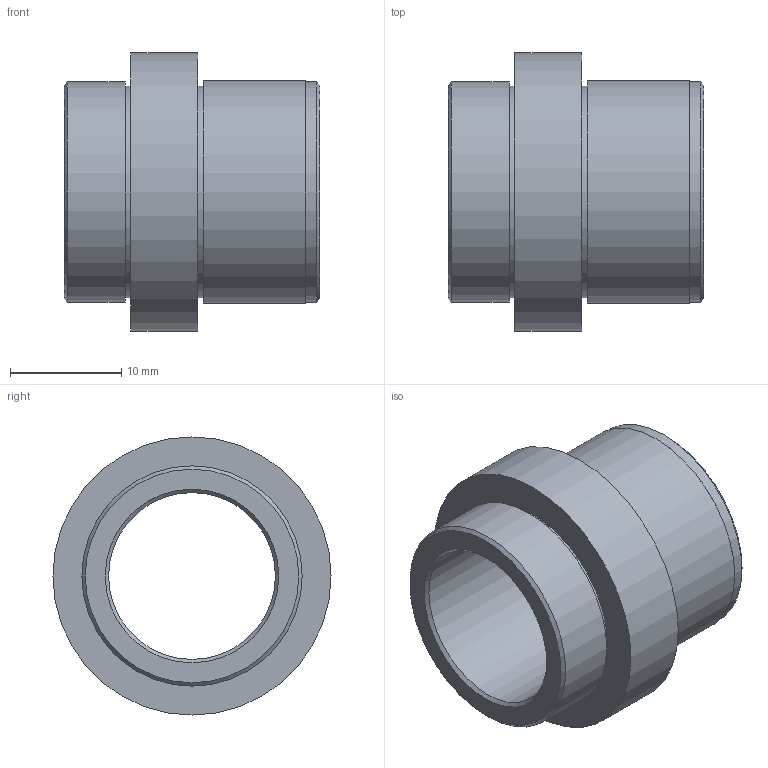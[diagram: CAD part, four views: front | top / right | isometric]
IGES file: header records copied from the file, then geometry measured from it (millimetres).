
Global section: file name: BG06.015017.ipt; native system: Autodesk Inventor 2021; preprocessor: unknown; author: SM; date: 20211221.173929; units: millimetre
Bounding box: 23 x 25 x 25 mm (x, y, z)
Volume: 4138.3 mm3; surface area: 3315.7 mm2
Topology: 1 solids, 1 shells, 18 faces, 31 edges, 20 vertices
Faces by surface type: plane 7, cylinder 6, revolution 3, cone 2
Full cylindrical faces by diameter (mm): 19 x2, 19.8 x2, 20 x1, 25 x1
